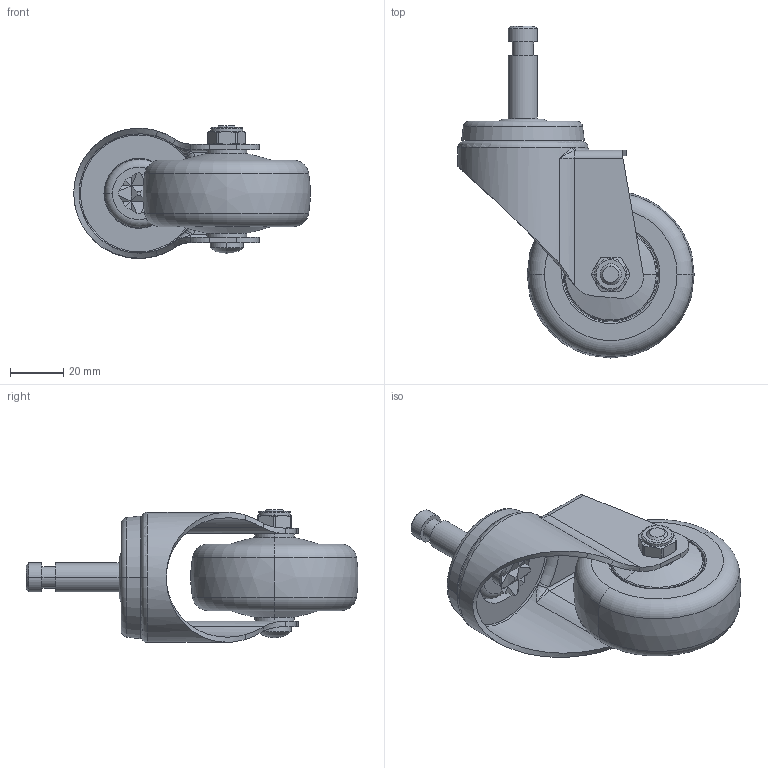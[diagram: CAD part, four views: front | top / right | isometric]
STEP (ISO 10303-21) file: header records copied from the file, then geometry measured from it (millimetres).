
FILE_DESCRIPTION((''),'2;1');
FILE_NAME('371525_ASM','2026-07-09T',('Lenovo'),(''),'PRO/ENGINEER BY PARAMETRIC TECHNOLOGY CORPORATION, 2010280','PRO/ENGINEER BY PARAMETRIC TECHNOLOGY CORPORATION, 2010280','');
FILE_SCHEMA(('CONFIG_CONTROL_DESIGN'));
Length unit declared in the file: millimetre
Products named in the file (8): 37125-311; 350-25; 360-03; 3725-977; 3725-69; 350-33A; 300-34; 371525_ASM
Assembly tree (8 placements, depth 2):
  371525_ASM
    37125-311
    350-25
    360-03
    3725-977
    3725-69  x2
    350-33A
    300-34
Bounding box: 88.98 x 124.93 x 49.96 mm (x, y, z)
Volume: 96572.8 mm3; surface area: 42949.6 mm2
Topology: 8 solids, 8 shells, 280 faces, 598 edges, 351 vertices
Faces by surface type: cylinder 89, plane 80, torus 58, cone 28, bspline 23, sphere 2
Entity records: 7961 total; most frequent: CARTESIAN_POINT 2275, DIRECTION 1266, ORIENTED_EDGE 1080, AXIS2_PLACEMENT_3D 547, EDGE_CURVE 540, VERTEX_POINT 319, CIRCLE 298, EDGE_LOOP 283
